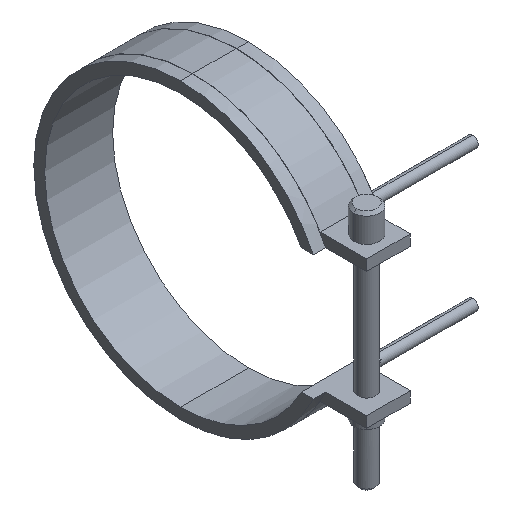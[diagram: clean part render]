
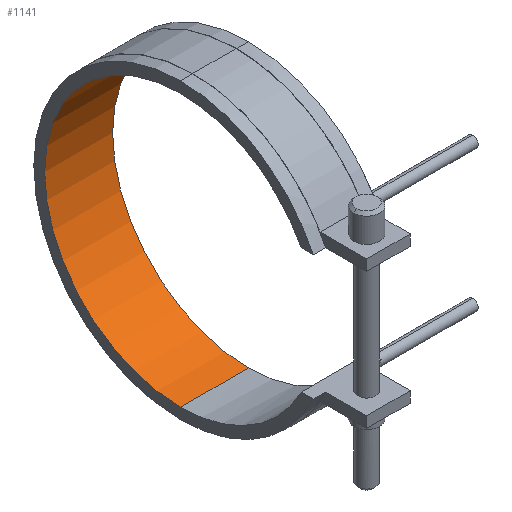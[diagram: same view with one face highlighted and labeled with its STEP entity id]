
A CAD part, isometric view. The second image highlights one B-rep face of the part: STEP entity #1141.
In plain terms, the highlighted cylindrical face has radius 50 mm (diameter 100 mm), a partial arc.
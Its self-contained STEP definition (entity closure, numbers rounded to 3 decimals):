
#822=CARTESIAN_POINT('Vertex',(-12.5,0.,-50.)) ;
#829=CARTESIAN_POINT('Vertex',(12.5,0.,-50.)) ;
#832=CARTESIAN_POINT('Line Origine',(0.,0.,-50.)) ;
#850=CARTESIAN_POINT('Axis2P3D Location',(-12.5,0.,0.)) ;
#854=CARTESIAN_POINT('Vertex',(-12.5,0.,50.)) ;
#911=CARTESIAN_POINT('Vertex',(12.5,0.,50.)) ;
#921=CARTESIAN_POINT('Line Origine',(0.,0.,50.)) ;
#1012=CARTESIAN_POINT('Axis2P3D Location',(12.5,0.,0.)) ;
#1130=CARTESIAN_POINT('Axis2P3D Location',(12.5,0.,0.)) ;
#833=DIRECTION('Vector Direction',(1.,0.,0.)) ;
#851=DIRECTION('Axis2P3D Direction',(1.,0.,0.)) ;
#922=DIRECTION('Vector Direction',(1.,0.,0.)) ;
#1013=DIRECTION('Axis2P3D Direction',(1.,0.,0.)) ;
#1131=DIRECTION('Axis2P3D Direction',(1.,0.,-0.)) ;
#1132=DIRECTION('Axis2P3D XDirection',(0.,0.,-1.)) ;
#852=AXIS2_PLACEMENT_3D('Circle Axis2P3D',#850,#851,$) ;
#1014=AXIS2_PLACEMENT_3D('Circle Axis2P3D',#1012,#1013,$) ;
#1133=AXIS2_PLACEMENT_3D('Cylinder Axis2P3D',#1130,#1131,#1132) ;
#1136=ORIENTED_EDGE('',*,*,#1016,.T.) ;
#1137=ORIENTED_EDGE('',*,*,#925,.T.) ;
#1138=ORIENTED_EDGE('',*,*,#856,.F.) ;
#1139=ORIENTED_EDGE('',*,*,#836,.T.) ;
#834=VECTOR('Line Direction',#833,1.) ;
#923=VECTOR('Line Direction',#922,1.) ;
#1141=ADVANCED_FACE('14100025',(#1140),#1134,.F.) ;
#853=CIRCLE('generated circle',#852,50.) ;
#1015=CIRCLE('generated circle',#1014,50.) ;
#1134=CYLINDRICAL_SURFACE('generated cylinder',#1133,50.) ;
#836=EDGE_CURVE('',#823,#830,#835,.T.) ;
#856=EDGE_CURVE('',#823,#855,#853,.T.) ;
#925=EDGE_CURVE('',#912,#855,#924,.F.) ;
#1016=EDGE_CURVE('',#830,#912,#1015,.T.) ;
#1135=EDGE_LOOP('',(#1136,#1137,#1138,#1139)) ;
#1140=FACE_OUTER_BOUND('',#1135,.T.) ;
#835=LINE('Line',#832,#834) ;
#924=LINE('Line',#921,#923) ;
#823=VERTEX_POINT('',#822) ;
#830=VERTEX_POINT('',#829) ;
#855=VERTEX_POINT('',#854) ;
#912=VERTEX_POINT('',#911) ;
